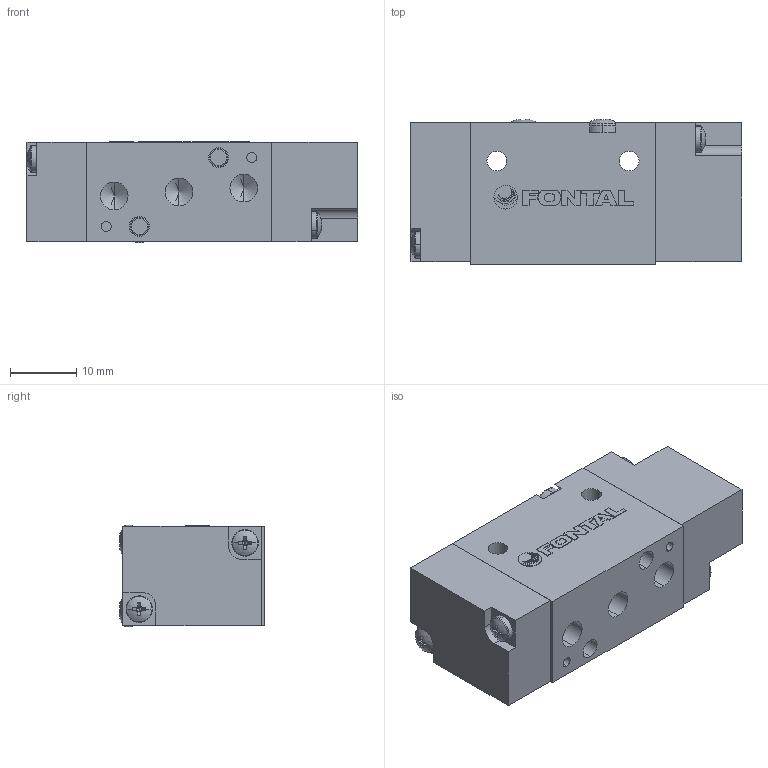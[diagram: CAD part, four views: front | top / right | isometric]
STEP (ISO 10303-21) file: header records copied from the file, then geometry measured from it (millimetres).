
FILE_DESCRIPTION (( 'STEP AP203' ), '1' );
FILE_NAME ('YCS245-M5.STEP', '2016-01-13T18:16:31', ( '' ), ( '' ), 'SwSTEP 2.0', 'SolidWorks 2014', '' );
FILE_SCHEMA (( 'CONFIG_CONTROL_DESIGN' ));
Length unit declared in the file: millimetre
Products named in the file (9): VCS245-1; PC5-2; 左側; VCS245-右側; YCS245-M5; PC-MARK; ISO 7045 - M2 x 10; ISO 7045 - M2.5 x 25; RCS-1
Assembly tree (12 placements, depth 3):
  YCS245-M5
    RCS-1
    PC-MARK
    左側
      PC5-2
      ISO 7045 - M2 x 10  x2
    ISO 7045 - M2.5 x 25  x2
    VCS245-右側
      VCS245-1
      ISO 7045 - M2 x 10  x2
Bounding box: 50.07 x 22.05 x 15.4 mm (x, y, z)
Volume: 14178.5 mm3; surface area: 8256.4 mm2
Topology: 16 solids, 16 shells, 438 faces, 1074 edges, 659 vertices
Faces by surface type: plane 233, cylinder 83, cone 78, torus 24, sphere 12, bspline 8
Entity records: 9031 total; most frequent: CARTESIAN_POINT 1536, DIRECTION 1392, ORIENTED_EDGE 1304, EDGE_CURVE 652, AXIS2_PLACEMENT_3D 507, VERTEX_POINT 419, VECTOR 378, LINE 378
